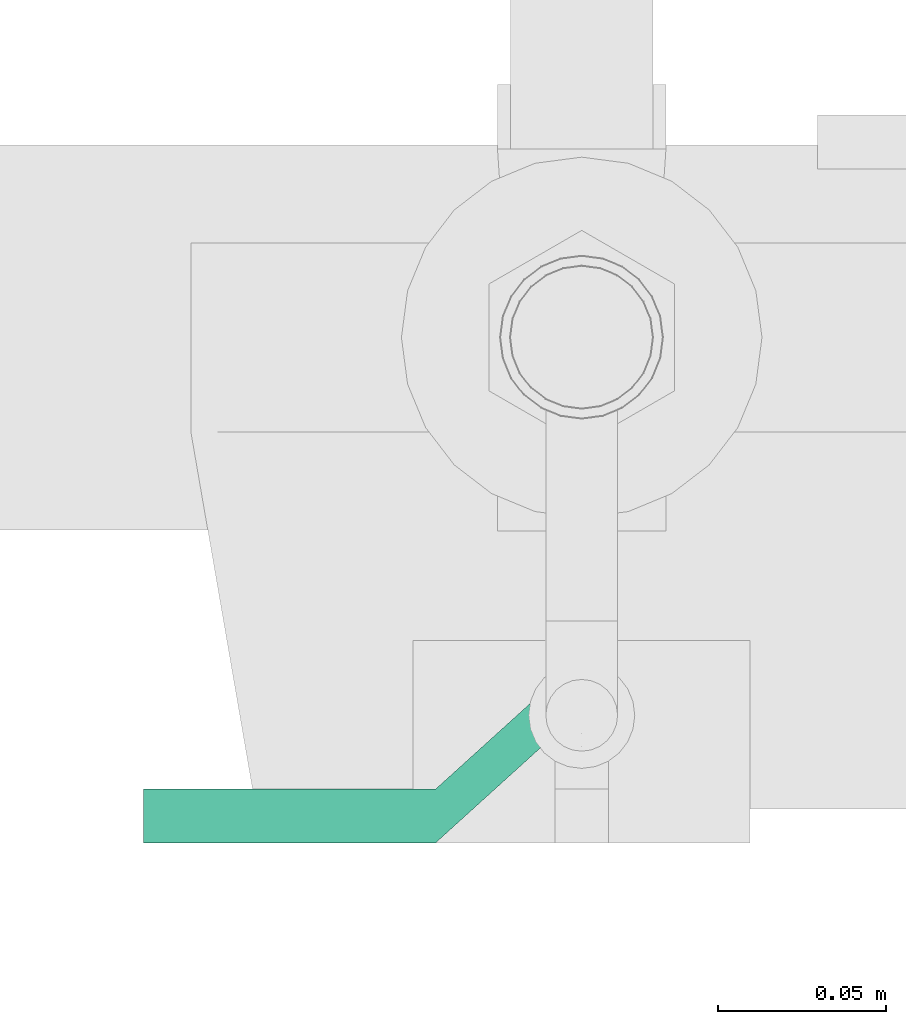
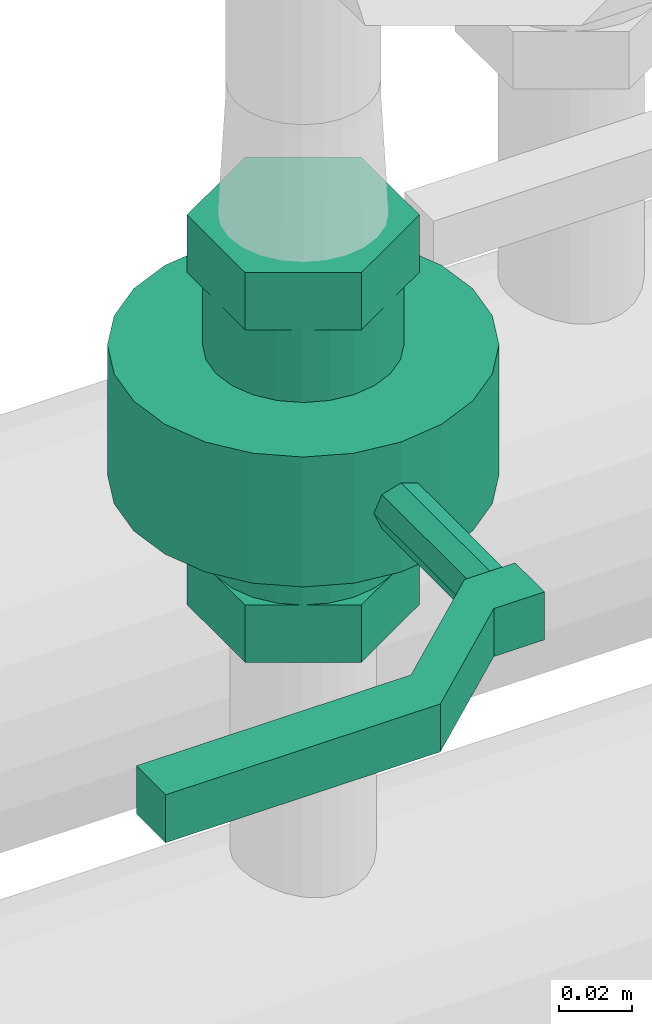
# One storey, part 87 of 374: 1 flow controller.
"""IFC2X3 building model written with IfcOpenShell, lengths in metres."""

from ifc_helpers import new_model, si_unit, direction, origin, place, context, subcontext, project, spatial, open_shell, surface_model, source, transform, mapped, element, save


model = new_model("IFC2X3")

# Units and contexts
model_context = context("Model", 3, precision=1e-05, world=origin(), true_north=direction((-0.4480736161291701, 0.8939966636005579)))
body_context = subcontext(model_context, "Body", "Model", "MODEL_VIEW")
ifc_project = project(units=[si_unit("LENGTHUNIT", "METRE"), si_unit("AREAUNIT", "SQUARE_METRE"), si_unit("VOLUMEUNIT", "CUBIC_METRE"), si_unit("PLANEANGLEUNIT", "RADIAN"), si_unit("THERMODYNAMICTEMPERATUREUNIT", "KELVIN"), si_unit("MASSUNIT", "GRAM", prefix="KILO"), si_unit("TIMEUNIT", "SECOND")], contexts=[model_context])

# Site, building, storey
site_placement = place(None, origin())
site = spatial("IfcSite", under=ifc_project, at=site_placement, Name="Site 1", CompositionType="ELEMENT")
building_placement = place(site_placement, origin())
building = spatial("IfcBuilding", under=site, at=building_placement, Name="Undefined", CompositionType="ELEMENT")
storey_placement = place(building_placement, origin())
storey = spatial("IfcBuildingStorey", under=building, at=storey_placement, Name="Rez de chauss\x8ee", CompositionType="ELEMENT", Elevation=0.0)

# Flow controller
shared_shape = source(origin(), body_context, "Body", "SurfaceModel", [
    surface_model("IfcFaceBasedSurfaceModel", [(0.0, 0.015999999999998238, 0.0), (0.0, 0.0, 0.0), (0.016000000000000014, 0.0, 0.0), (0.016000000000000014, 0.015999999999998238, 0.0), (0.0, 0.0, 0.016000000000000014), (0.016000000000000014, 0.0, 0.016000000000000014), (0.0, 0.015999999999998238, 0.016000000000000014), (0.016000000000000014, 0.015999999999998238, 0.016000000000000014), (0.0, 0.051333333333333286, 0.04800000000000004), (0.016000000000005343, 0.051333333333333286, 0.04800000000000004), (0.0, 0.13800000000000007, 0.04800000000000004), (0.016000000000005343, 0.13800000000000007, 0.04800000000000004), (0.0, 0.13800000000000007, 0.03200000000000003), (0.016000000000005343, 0.13800000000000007, 0.03200000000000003), (0.0, 0.051333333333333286, 0.03200000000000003), (0.016000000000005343, 0.051333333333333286, 0.03200000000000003), (-0.05700000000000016, -0.01950000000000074, -0.11787713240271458), (-0.05700000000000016, -0.01950000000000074, -0.08612286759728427), (-0.03790000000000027, -0.01950000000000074, -0.08612286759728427), (-0.03790000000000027, -0.01950000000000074, -0.11787713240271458), (-0.05700000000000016, 0.008000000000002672, -0.13375426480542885), (-0.03790000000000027, 0.008000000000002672, -0.13375426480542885), (-0.05700000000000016, 0.03549999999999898, -0.11787713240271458), (-0.03790000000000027, 0.03549999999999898, -0.11787713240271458), (-0.05700000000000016, 0.03549999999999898, -0.08612286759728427), (-0.03790000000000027, 0.03549999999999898, -0.08612286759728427), (-0.05700000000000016, 0.008000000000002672, -0.07024573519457), (-0.03790000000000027, 0.008000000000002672, -0.07024573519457), (-0.03790000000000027, 0.03549999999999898, -0.10200000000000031), (-0.03790000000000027, 0.03456296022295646, -0.09488247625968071), (-0.013666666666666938, 0.03456296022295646, -0.09488247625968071), (-0.013666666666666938, 0.03549999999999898, -0.10200000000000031), (-0.03790000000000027, 0.03181569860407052, -0.08825000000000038), (-0.013666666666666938, 0.03181569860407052, -0.08825000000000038), (-0.03790000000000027, 0.02744543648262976, -0.08255456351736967), (-0.013666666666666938, 0.02744543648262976, -0.08255456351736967), (-0.03790000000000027, 0.021750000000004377, -0.07818430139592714), (-0.013666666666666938, 0.021750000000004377, -0.07818430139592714), (-0.03790000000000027, 0.01511752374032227, -0.07543703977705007), (-0.013666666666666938, 0.01511752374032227, -0.07543703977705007), (-0.03790000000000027, 0.008000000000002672, -0.07449999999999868), (-0.013666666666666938, 0.008000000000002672, -0.07449999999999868), (-0.03790000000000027, 0.0008824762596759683, -0.07543703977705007), (-0.013666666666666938, 0.0008824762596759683, -0.07543703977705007), (-0.03790000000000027, -0.005749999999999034, -0.07818430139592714), (-0.013666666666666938, -0.005749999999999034, -0.07818430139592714), (-0.03790000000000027, -0.011445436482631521, -0.08255456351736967), (-0.013666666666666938, -0.011445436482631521, -0.08255456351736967), (-0.03790000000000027, -0.01581569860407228, -0.08825000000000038), (-0.013666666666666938, -0.01581569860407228, -0.08825000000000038), (-0.03790000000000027, -0.01856296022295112, -0.09488247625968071), (-0.013666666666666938, -0.01856296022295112, -0.09488247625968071), (-0.03790000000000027, -0.01950000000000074, -0.10200000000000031), (-0.013666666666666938, -0.01950000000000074, -0.10200000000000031), (-0.03790000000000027, -0.01856296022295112, -0.10911752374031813), (-0.013666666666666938, -0.01856296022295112, -0.10911752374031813), (-0.03790000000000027, -0.01581569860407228, -0.11575000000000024), (-0.013666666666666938, -0.01581569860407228, -0.11575000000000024), (-0.03790000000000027, -0.011445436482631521, -0.12144543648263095), (-0.013666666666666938, -0.011445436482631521, -0.12144543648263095), (-0.03790000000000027, -0.005749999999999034, -0.1258156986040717), (-0.013666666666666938, -0.005749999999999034, -0.1258156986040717), (-0.03790000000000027, 0.0008824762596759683, -0.12856296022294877), (-0.013666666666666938, 0.0008824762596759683, -0.12856296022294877), (-0.03790000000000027, 0.008000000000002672, -0.12950000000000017), (-0.013666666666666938, 0.008000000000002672, -0.12950000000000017), (-0.03790000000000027, 0.01511752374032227, -0.12856296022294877), (-0.013666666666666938, 0.01511752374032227, -0.12856296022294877), (-0.03790000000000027, 0.021750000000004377, -0.1258156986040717), (-0.013666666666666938, 0.021750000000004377, -0.1258156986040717), (-0.03790000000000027, 0.02744543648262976, -0.12144543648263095), (-0.013666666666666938, 0.02744543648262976, -0.12144543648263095), (-0.03790000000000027, 0.03181569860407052, -0.11575000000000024), (-0.013666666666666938, 0.03181569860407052, -0.11575000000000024), (-0.03790000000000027, 0.03456296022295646, -0.10911752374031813), (-0.013666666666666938, 0.03456296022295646, -0.10911752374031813), (-0.013666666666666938, 0.06150000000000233, -0.10200000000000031), (-0.013666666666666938, 0.05967703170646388, -0.08815318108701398), (0.02966666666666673, 0.05967703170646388, -0.08815318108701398), (0.02966666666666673, 0.06150000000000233, -0.10200000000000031), (-0.013666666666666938, 0.054332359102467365, -0.0752499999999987), (0.02966666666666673, 0.054332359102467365, -0.0752499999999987), (-0.013666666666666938, 0.04583021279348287, -0.06416978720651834), (0.02966666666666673, 0.04583021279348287, -0.06416978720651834), (-0.013666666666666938, 0.0347500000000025, -0.05566764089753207), (0.02966666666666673, 0.0347500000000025, -0.05566764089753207), (-0.013666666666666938, 0.02184681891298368, -0.050322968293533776), (0.02966666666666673, 0.02184681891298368, -0.050322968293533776), (-0.013666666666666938, 0.008000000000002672, -0.04849999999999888), (0.02966666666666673, 0.008000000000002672, -0.04849999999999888), (-0.013666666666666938, -0.005846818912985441, -0.050322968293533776), (0.02966666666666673, -0.005846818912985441, -0.050322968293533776), (-0.013666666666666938, -0.018749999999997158, -0.05566764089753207), (0.02966666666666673, -0.018749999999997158, -0.05566764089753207), (-0.013666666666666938, -0.02983021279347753, -0.06416978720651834), (0.02966666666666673, -0.02983021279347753, -0.06416978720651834), (-0.013666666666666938, -0.03833235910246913, -0.0752499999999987), (0.02966666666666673, -0.03833235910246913, -0.0752499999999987), (-0.013666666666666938, -0.04367703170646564, -0.08815318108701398), (0.02966666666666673, -0.04367703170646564, -0.08815318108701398), (-0.013666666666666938, -0.04549999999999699, -0.10200000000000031), (0.02966666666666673, -0.04549999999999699, -0.10200000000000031), (-0.013666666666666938, -0.04367703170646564, -0.11584681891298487), (0.02966666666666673, -0.04367703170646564, -0.11584681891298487), (-0.013666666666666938, -0.03833235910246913, -0.12875000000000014), (0.02966666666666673, -0.03833235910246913, -0.12875000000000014), (-0.013666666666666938, -0.02983021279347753, -0.1398302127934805), (0.02966666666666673, -0.02983021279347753, -0.1398302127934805), (-0.013666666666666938, -0.018749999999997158, -0.14833235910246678), (0.02966666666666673, -0.018749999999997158, -0.14833235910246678), (-0.013666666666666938, -0.005846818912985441, -0.15367703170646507), (0.02966666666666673, -0.005846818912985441, -0.15367703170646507), (-0.013666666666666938, 0.008000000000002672, -0.15549999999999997), (0.02966666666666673, 0.008000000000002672, -0.15549999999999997), (-0.013666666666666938, 0.02184681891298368, -0.15367703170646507), (0.02966666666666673, 0.02184681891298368, -0.15367703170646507), (-0.013666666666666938, 0.0347500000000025, -0.14833235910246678), (0.02966666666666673, 0.0347500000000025, -0.14833235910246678), (-0.013666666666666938, 0.04583021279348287, -0.1398302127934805), (0.02966666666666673, 0.04583021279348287, -0.1398302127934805), (-0.013666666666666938, 0.054332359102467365, -0.12875000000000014), (0.02966666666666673, 0.054332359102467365, -0.12875000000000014), (-0.013666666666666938, 0.05967703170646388, -0.11584681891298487), (0.02966666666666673, 0.05967703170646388, -0.11584681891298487), (-0.013666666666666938, 0.008000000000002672, -0.10200000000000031), (0.02966666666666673, 0.008000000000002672, -0.10200000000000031), (0.02966666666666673, 0.03549999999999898, -0.10200000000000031), (0.02966666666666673, 0.03456296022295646, -0.09488247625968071), (0.05390000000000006, 0.03456296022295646, -0.09488247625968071), (0.05390000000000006, 0.03549999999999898, -0.10200000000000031), (0.02966666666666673, 0.03181569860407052, -0.08825000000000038), (0.05390000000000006, 0.03181569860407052, -0.08825000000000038), (0.02966666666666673, 0.02744543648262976, -0.08255456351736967), (0.05390000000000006, 0.02744543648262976, -0.08255456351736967), (0.02966666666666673, 0.021750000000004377, -0.07818430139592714), (0.05390000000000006, 0.021750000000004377, -0.07818430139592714), (0.02966666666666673, 0.01511752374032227, -0.07543703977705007), (0.05390000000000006, 0.01511752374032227, -0.07543703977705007), (0.02966666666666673, 0.008000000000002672, -0.07449999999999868), (0.05390000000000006, 0.008000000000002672, -0.07449999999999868), (0.02966666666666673, 0.0008824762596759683, -0.07543703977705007), (0.05390000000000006, 0.0008824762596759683, -0.07543703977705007), (0.02966666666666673, -0.005749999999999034, -0.07818430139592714), (0.05390000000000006, -0.005749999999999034, -0.07818430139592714), (0.02966666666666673, -0.011445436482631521, -0.08255456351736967), (0.05390000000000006, -0.011445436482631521, -0.08255456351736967), (0.02966666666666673, -0.01581569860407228, -0.08825000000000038), (0.05390000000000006, -0.01581569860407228, -0.08825000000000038), (0.02966666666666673, -0.01856296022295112, -0.09488247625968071), (0.05390000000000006, -0.01856296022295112, -0.09488247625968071), (0.02966666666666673, -0.01950000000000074, -0.10200000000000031), (0.05390000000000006, -0.01950000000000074, -0.10200000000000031), (0.02966666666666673, -0.01856296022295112, -0.10911752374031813), (0.05390000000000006, -0.01856296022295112, -0.10911752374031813), (0.02966666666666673, -0.01581569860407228, -0.11575000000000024), (0.05390000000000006, -0.01581569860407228, -0.11575000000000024), (0.02966666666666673, -0.011445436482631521, -0.12144543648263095), (0.05390000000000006, -0.011445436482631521, -0.12144543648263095), (0.02966666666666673, -0.005749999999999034, -0.1258156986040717), (0.05390000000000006, -0.005749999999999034, -0.1258156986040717), (0.02966666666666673, 0.0008824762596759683, -0.12856296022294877), (0.05390000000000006, 0.0008824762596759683, -0.12856296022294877), (0.02966666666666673, 0.008000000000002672, -0.12950000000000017), (0.05390000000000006, 0.008000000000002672, -0.12950000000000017), (0.02966666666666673, 0.01511752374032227, -0.12856296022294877), (0.05390000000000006, 0.01511752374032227, -0.12856296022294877), (0.02966666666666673, 0.021750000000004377, -0.1258156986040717), (0.05390000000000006, 0.021750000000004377, -0.1258156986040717), (0.02966666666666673, 0.02744543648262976, -0.12144543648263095), (0.05390000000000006, 0.02744543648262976, -0.12144543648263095), (0.02966666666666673, 0.03181569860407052, -0.11575000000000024), (0.05390000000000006, 0.03181569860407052, -0.11575000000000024), (0.02966666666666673, 0.03456296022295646, -0.10911752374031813), (0.05390000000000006, 0.03456296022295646, -0.10911752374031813), (0.05390000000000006, -0.01950000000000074, -0.11787713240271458), (0.05390000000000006, -0.01950000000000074, -0.08612286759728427), (0.07299999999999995, -0.01950000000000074, -0.08612286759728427), (0.07299999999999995, -0.01950000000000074, -0.11787713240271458), (0.05390000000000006, 0.008000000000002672, -0.13375426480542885), (0.07299999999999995, 0.008000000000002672, -0.13375426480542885), (0.05390000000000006, 0.03549999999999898, -0.11787713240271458), (0.07299999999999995, 0.03549999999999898, -0.11787713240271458), (0.05390000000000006, 0.03549999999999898, -0.08612286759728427), (0.07299999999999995, 0.03549999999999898, -0.08612286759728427), (0.05390000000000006, 0.008000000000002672, -0.07024573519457), (0.07299999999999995, 0.008000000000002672, -0.07024573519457), (0.015999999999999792, 0.008000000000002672, -0.10200000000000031), (0.013656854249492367, 0.01365685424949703, -0.10200000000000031), (0.013656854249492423, 0.013656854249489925, 0.0), (0.016000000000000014, 0.008000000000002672, 0.0), (0.008000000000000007, 0.015999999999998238, -0.10200000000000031), (0.008000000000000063, 0.015999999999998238, 0.0), (0.002343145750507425, 0.01365685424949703, -0.10200000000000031), (0.002343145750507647, 0.013656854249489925, 0.0), (0.0, 0.008000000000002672, -0.10200000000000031), (0.0, 0.008, 0.0), (0.002343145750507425, 0.002343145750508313, -0.10200000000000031), (0.002343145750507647, 0.002343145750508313, 0.0), (0.008000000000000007, 0.0, -0.10200000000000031), (0.008000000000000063, 0.0, 0.0), (0.013656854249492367, 0.002343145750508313, -0.10200000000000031), (0.013656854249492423, 0.002343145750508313, 0.0)], [open_shell([[[0, 1, 2, 3]], [[1, 4, 5, 2]], [[4, 6, 7, 5]], [[6, 8, 9, 7]], [[8, 10, 11, 9]], [[10, 12, 13, 11]], [[12, 14, 15, 13]], [[14, 0, 3, 15]], [[3, 7, 2]], [[7, 3, 9]], [[15, 9, 3]], [[9, 15, 11]], [[13, 11, 15]], [[5, 2, 7]], [[1, 6, 0]], [[8, 0, 6]], [[0, 8, 14]], [[10, 14, 8]], [[14, 10, 12]], [[6, 1, 4]], [[16, 17, 18, 19]], [[20, 16, 19, 21]], [[22, 20, 21, 23]], [[24, 22, 23, 25]], [[26, 24, 25, 27]], [[17, 26, 27, 18]], [[17, 16, 20]], [[17, 20, 22]], [[17, 22, 24]], [[17, 24, 26]], [[18, 21, 19]], [[18, 23, 21]], [[18, 25, 23]], [[18, 27, 25]], [[28, 29, 30, 31]], [[29, 32, 33, 30]], [[32, 34, 35, 33]], [[34, 36, 37, 35]], [[36, 38, 39, 37]], [[38, 40, 41, 39]], [[40, 42, 43, 41]], [[42, 44, 45, 43]], [[44, 46, 47, 45]], [[46, 48, 49, 47]], [[48, 50, 51, 49]], [[50, 52, 53, 51]], [[52, 54, 55, 53]], [[54, 56, 57, 55]], [[56, 58, 59, 57]], [[58, 60, 61, 59]], [[60, 62, 63, 61]], [[62, 64, 65, 63]], [[64, 66, 67, 65]], [[66, 68, 69, 67]], [[68, 70, 71, 69]], [[70, 72, 73, 71]], [[72, 74, 75, 73]], [[74, 28, 31, 75]], [[76, 77, 78, 79]], [[77, 80, 81, 78]], [[80, 82, 83, 81]], [[82, 84, 85, 83]], [[84, 86, 87, 85]], [[86, 88, 89, 87]], [[88, 90, 91, 89]], [[90, 92, 93, 91]], [[92, 94, 95, 93]], [[94, 96, 97, 95]], [[96, 98, 99, 97]], [[98, 100, 101, 99]], [[100, 102, 103, 101]], [[102, 104, 105, 103]], [[104, 106, 107, 105]], [[106, 108, 109, 107]], [[108, 110, 111, 109]], [[110, 112, 113, 111]], [[112, 114, 115, 113]], [[114, 116, 117, 115]], [[116, 118, 119, 117]], [[118, 120, 121, 119]], [[120, 122, 123, 121]], [[122, 76, 79, 123]], [[124, 77, 76]], [[124, 80, 77]], [[124, 82, 80]], [[124, 84, 82]], [[124, 86, 84]], [[124, 88, 86]], [[124, 90, 88]], [[124, 92, 90]], [[124, 94, 92]], [[124, 96, 94]], [[124, 98, 96]], [[124, 100, 98]], [[124, 102, 100]], [[124, 104, 102]], [[124, 106, 104]], [[124, 108, 106]], [[124, 110, 108]], [[124, 112, 110]], [[124, 114, 112]], [[124, 116, 114]], [[124, 118, 116]], [[124, 120, 118]], [[124, 122, 120]], [[124, 76, 122]], [[125, 123, 79]], [[125, 121, 123]], [[125, 119, 121]], [[125, 117, 119]], [[125, 115, 117]], [[125, 113, 115]], [[125, 111, 113]], [[125, 109, 111]], [[125, 107, 109]], [[125, 105, 107]], [[125, 103, 105]], [[125, 101, 103]], [[125, 99, 101]], [[125, 97, 99]], [[125, 95, 97]], [[125, 93, 95]], [[125, 91, 93]], [[125, 89, 91]], [[125, 87, 89]], [[125, 85, 87]], [[125, 83, 85]], [[125, 81, 83]], [[125, 78, 81]], [[125, 79, 78]], [[126, 127, 128, 129]], [[127, 130, 131, 128]], [[130, 132, 133, 131]], [[132, 134, 135, 133]], [[134, 136, 137, 135]], [[136, 138, 139, 137]], [[138, 140, 141, 139]], [[140, 142, 143, 141]], [[142, 144, 145, 143]], [[144, 146, 147, 145]], [[146, 148, 149, 147]], [[148, 150, 151, 149]], [[150, 152, 153, 151]], [[152, 154, 155, 153]], [[154, 156, 157, 155]], [[156, 158, 159, 157]], [[158, 160, 161, 159]], [[160, 162, 163, 161]], [[162, 164, 165, 163]], [[164, 166, 167, 165]], [[166, 168, 169, 167]], [[168, 170, 171, 169]], [[170, 172, 173, 171]], [[172, 126, 129, 173]], [[174, 175, 176, 177]], [[178, 174, 177, 179]], [[180, 178, 179, 181]], [[182, 180, 181, 183]], [[184, 182, 183, 185]], [[175, 184, 185, 176]], [[175, 174, 178]], [[175, 178, 180]], [[175, 180, 182]], [[175, 182, 184]], [[176, 179, 177]], [[176, 181, 179]], [[176, 183, 181]], [[176, 185, 183]], [[186, 187, 188, 189]], [[187, 190, 191, 188]], [[190, 192, 193, 191]], [[192, 194, 195, 193]], [[194, 196, 197, 195]], [[196, 198, 199, 197]], [[198, 200, 201, 199]], [[200, 186, 189, 201]]])]),
])
flow_controller_placement = place(storey_placement, origin())
element("IfcFlowController", 1, at=flow_controller_placement, inside=storey, Name="Robinet à boisseau sphérique", ObjectType="Robinet à boisseau sphérique", context=body_context, shape_type="MappedRepresentation", body=[
    mapped(shared_shape, transform((52.4655620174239, 10.616037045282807, 0.4950500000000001), x_axis=(0.0, 0.0, 1.0), y_axis=(-1.0, 0.0, 0.0), z_axis=(0.0, -1.0, 0.0))),
])

save(model, "model.ifc")
